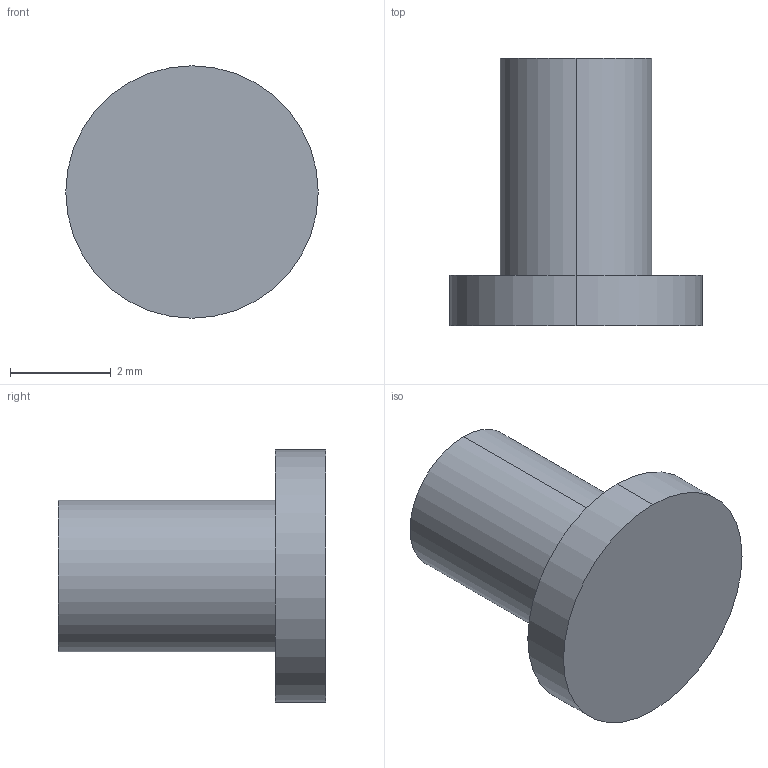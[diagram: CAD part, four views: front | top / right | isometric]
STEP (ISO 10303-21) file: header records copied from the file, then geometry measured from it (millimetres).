
FILE_DESCRIPTION (( 'STEP AP214' ), '1' );
FILE_NAME ('Component boto vermell PP43.STEP', '2016-10-06T16:24:23', ( 'aaa' ), ( '' ), 'SwSTEP 2.0', 'SolidWorks 2013', '' );
FILE_SCHEMA (( 'AUTOMOTIVE_DESIGN' ));
Length unit declared in the file: millimetre
Products named in the file (1): Component boto vermell PP43
Bounding box: 5 x 5.3 x 5 mm (x, y, z)
Volume: 50 mm3; surface area: 95.5 mm2
Topology: 1 solids, 1 shells, 7 faces, 12 edges, 8 vertices
Faces by surface type: cylinder 4, plane 3
Entity records: 208 total; most frequent: DIRECTION 36, CARTESIAN_POINT 28, ORIENTED_EDGE 24, AXIS2_PLACEMENT_3D 16, EDGE_CURVE 12, VERTEX_POINT 8, EDGE_LOOP 8, CIRCLE 8
